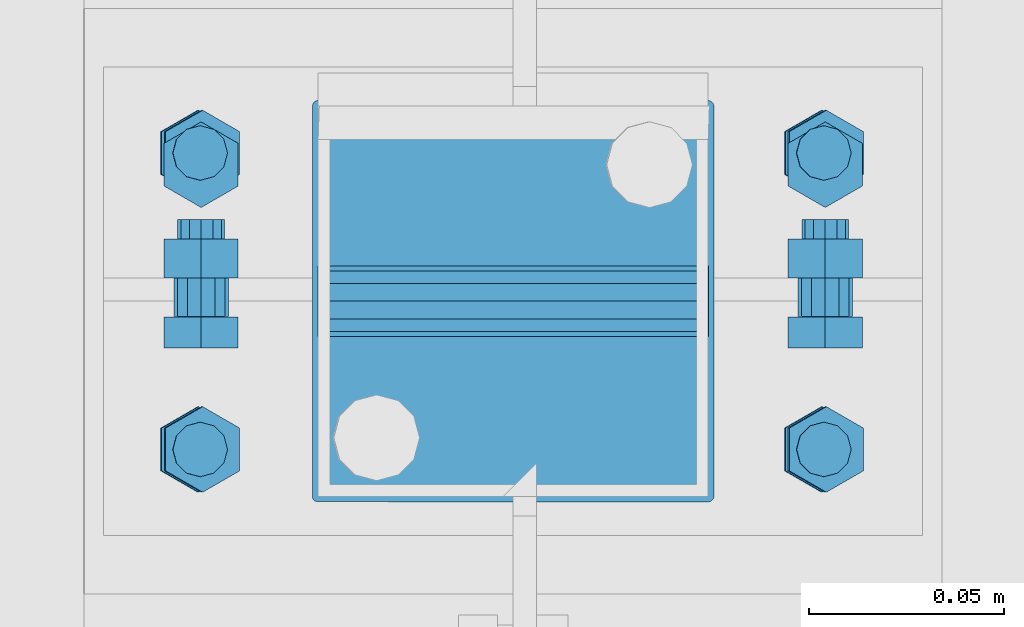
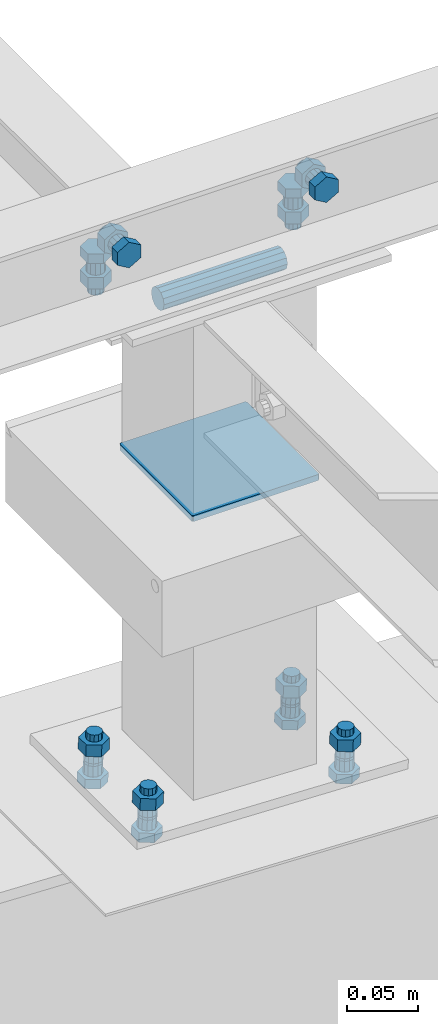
# One storey, part 8 of 3134: 6 mechanical fasteners, 3 elements without a shape of their own.
"""IFC2X3 building model written with IfcOpenShell, lengths in millimetres."""

from ifc_helpers import new_model, si_unit, frame, origin_with_axes, place, context, subcontext, project, spatial, faceted_brep, source, transform, mapped, material, type_object, element, aggregate, save


model = new_model("IFC2X3")

# Units and contexts
model_context = context("Model", 3, precision=1e-05, world=origin_with_axes())
body_context = subcontext(model_context, "Body", "Model", "MODEL_VIEW")
ifc_project = project(units=[si_unit("LENGTHUNIT", "METRE", prefix="MILLI"), si_unit("AREAUNIT", "SQUARE_METRE"), si_unit("VOLUMEUNIT", "CUBIC_METRE"), si_unit("MASSUNIT", "GRAM", prefix="KILO"), si_unit("TIMEUNIT", "SECOND"), si_unit("PLANEANGLEUNIT", "RADIAN"), si_unit("SOLIDANGLEUNIT", "STERADIAN"), si_unit("THERMODYNAMICTEMPERATUREUNIT", "DEGREE_CELSIUS"), si_unit("LUMINOUSINTENSITYUNIT", "LUMEN")], contexts=[model_context])

# Site, building, storey
site_placement = place(None, origin_with_axes())
site = spatial("IfcSite", under=ifc_project, at=site_placement, CompositionType="ELEMENT")
building_placement = place(site_placement, origin_with_axes())
building = spatial("IfcBuilding", under=site, at=building_placement, Name="Undefined", CompositionType="ELEMENT")
storey_placement = place(building_placement, origin_with_axes())
storey = spatial("IfcBuildingStorey", under=building, at=storey_placement, Name="Undefined", CompositionType="ELEMENT", Elevation=0.0)

# Assembly, mechanical fastener
assembly_1_placement = place(storey_placement, origin_with_axes())
assembly_1 = element("IfcElementAssembly", 1, at=assembly_1_placement, inside=storey, AssemblyPlace="NOTDEFINED", PredefinedType="RIGID_FRAME")
ifc_material_1 = material(Name="8.8")
mechanical_fastener_type = type_object("IfcMechanicalFastenerType", Name="Bolt assembly")
shared_shape_1 = source(origin_with_axes(), body_context, "Body", "Brep", [
    faceted_brep([(10.9696551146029, -14.0, 0.0), (5.48482755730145, -14.0, 9.5), (-5.48482755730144, -14.0, 9.5), (-10.9696551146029, -14.0, 1.34339530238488e-15), (-5.48482755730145, -14.0, -9.5), (5.48482755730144, -14.0, -9.50000000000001), (5.48482755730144, -6.0, -9.50000000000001), (-5.48482755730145, -6.0, -9.5), (-10.9696551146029, -6.0, 1.34339530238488e-15), (-5.48482755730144, -6.0, 9.5), (5.48482755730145, -6.0, 9.5), (10.9696551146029, -6.0, 0.0), (6.0, -6.0, 0.0), (5.19615242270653, -6.0, 3.00000000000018), (2.99999999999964, -6.0, 5.19615242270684), (-6.21801588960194e-13, -6.0, 6.0), (-3.00000000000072, -6.0, 5.19615242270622), (-5.19615242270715, -6.0, 2.9999999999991), (-6.0, -6.0, -1.24360317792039e-12), (-5.19615242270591, -6.0, -3.00000000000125), (-2.99999999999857, -6.0, -5.19615242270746), (1.85874342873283e-12, -6.0, -6.0), (3.00000000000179, -6.0, -5.1961524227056), (5.19615242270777, -6.0, -2.99999999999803), (5.19615242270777, 24.0, -2.99999999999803), (3.00000000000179, 24.0, -5.1961524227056), (1.85874342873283e-12, 24.0, -6.0), (-2.99999999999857, 24.0, -5.19615242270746), (-5.19615242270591, 24.0, -3.00000000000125), (-6.0, 24.0, -1.24360317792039e-12), (-5.19615242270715, 24.0, 2.9999999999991), (-3.00000000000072, 24.0, 5.19615242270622), (-6.21801588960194e-13, 24.0, 6.0), (2.99999999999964, 24.0, 5.19615242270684), (5.19615242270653, 24.0, 3.00000000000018), (6.0, 24.0, 0.0), (10.9696551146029, 6.00000000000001, 0.0), (5.48482755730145, 6.00000000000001, 9.5), (-5.48482755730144, 6.00000000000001, 9.5), (-10.9696551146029, 6.00000000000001, 1.34339530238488e-15), (-5.48482755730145, 6.00000000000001, -9.5), (5.48482755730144, 6.00000000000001, -9.50000000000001), (5.48482755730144, 16.0, -9.50000000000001), (-5.48482755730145, 16.0, -9.5), (-10.9696551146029, 16.0, 1.34339530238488e-15), (-5.48482755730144, 16.0, 9.5), (5.48482755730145, 16.0, 9.5), (10.9696551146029, 16.0, 0.0)], [[[0, 1, 2, 3, 4, 5]], [[6, 7, 8, 9, 10, 11]], [[0, 11, 10, 1]], [[1, 10, 9, 2]], [[2, 9, 8, 3]], [[3, 8, 7, 4]], [[4, 7, 6, 5]], [[5, 6, 11, 0]], [[12, 13, 14, 15, 16, 17, 18, 19, 20, 21, 22, 23]], [[24, 25, 26, 27, 28, 29, 30, 31, 32, 33, 34, 35]], [[12, 35, 34, 13]], [[13, 34, 33, 14]], [[14, 33, 32, 15]], [[15, 32, 31, 16]], [[16, 31, 30, 17]], [[17, 30, 29, 18]], [[18, 29, 28, 19]], [[19, 28, 27, 20]], [[20, 27, 26, 21]], [[21, 26, 25, 22]], [[22, 25, 24, 23]], [[23, 24, 35, 12]], [[36, 37, 38, 39, 40, 41]], [[42, 43, 44, 45, 46, 47]], [[36, 47, 46, 37]], [[37, 46, 45, 38]], [[38, 45, 44, 39]], [[39, 44, 43, 40]], [[40, 43, 42, 41]], [[41, 42, 47, 36]]]),
    faceted_brep([(7.0, -0.1, 0.0), (6.06217782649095, -0.1, 3.50000000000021), (3.49999999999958, -0.1, 6.06217782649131), (-7.25435187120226e-13, -0.1, 7.0), (-3.50000000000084, -0.1, 6.06217782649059), (-6.06217782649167, -0.1, 3.49999999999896), (-7.0, -0.1, -1.45087037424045e-12), (-6.06217782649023, -0.1, -3.50000000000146), (-3.49999999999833, -0.1, -6.06217782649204), (2.1685340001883e-12, -0.1, -7.0), (3.50000000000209, -0.1, -6.06217782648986), (6.0621778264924, -0.1, -3.4999999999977), (6.0621778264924, 6.00000000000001, -3.4999999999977), (3.50000000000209, 6.00000000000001, -6.06217782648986), (2.1685340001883e-12, 6.00000000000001, -7.0), (-3.49999999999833, 6.00000000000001, -6.06217782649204), (-6.06217782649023, 6.00000000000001, -3.50000000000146), (-7.0, 6.00000000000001, -1.45087037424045e-12), (-6.06217782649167, 6.00000000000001, 3.49999999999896), (-3.50000000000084, 6.00000000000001, 6.06217782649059), (-7.25435187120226e-13, 6.00000000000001, 7.0), (3.49999999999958, 6.00000000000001, 6.06217782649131), (6.06217782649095, 6.00000000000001, 3.50000000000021), (7.0, 6.00000000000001, 0.0), (7.0, -5.9, 0.0), (6.06217782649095, -5.9, 3.50000000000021), (3.49999999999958, -5.9, 6.06217782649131), (-7.25435187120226e-13, -5.9, 7.0), (-3.50000000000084, -5.9, 6.06217782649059), (-6.06217782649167, -5.9, 3.49999999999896), (-7.0, -5.9, -1.45087037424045e-12), (-6.06217782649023, -5.9, -3.50000000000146), (-3.49999999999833, -5.9, -6.06217782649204), (2.1685340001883e-12, -5.9, -7.0), (3.50000000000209, -5.9, -6.06217782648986), (6.0621778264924, -5.9, -3.4999999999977), (6.0621778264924, 0.0999999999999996, -3.4999999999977), (3.50000000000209, 0.0999999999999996, -6.06217782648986), (2.1685340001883e-12, 0.0999999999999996, -7.0), (-3.49999999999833, 0.0999999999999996, -6.06217782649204), (-6.06217782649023, 0.0999999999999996, -3.50000000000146), (-7.0, 0.0999999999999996, -1.45087037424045e-12), (-6.06217782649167, 0.0999999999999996, 3.49999999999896), (-3.50000000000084, 0.0999999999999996, 6.06217782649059), (-7.25435187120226e-13, 0.0999999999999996, 7.0), (3.49999999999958, 0.0999999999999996, 6.06217782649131), (6.06217782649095, 0.0999999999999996, 3.50000000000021), (7.0, 0.0999999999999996, 0.0)], [[[0, 1, 2, 3, 4, 5, 6, 7, 8, 9, 10, 11]], [[12, 13, 14, 15, 16, 17, 18, 19, 20, 21, 22, 23]], [[0, 23, 22, 1]], [[1, 22, 21, 2]], [[2, 21, 20, 3]], [[3, 20, 19, 4]], [[4, 19, 18, 5]], [[5, 18, 17, 6]], [[6, 17, 16, 7]], [[7, 16, 15, 8]], [[8, 15, 14, 9]], [[9, 14, 13, 10]], [[10, 13, 12, 11]], [[11, 12, 23, 0]], [[24, 25, 26, 27, 28, 29, 30, 31, 32, 33, 34, 35]], [[36, 37, 38, 39, 40, 41, 42, 43, 44, 45, 46, 47]], [[24, 47, 46, 25]], [[25, 46, 45, 26]], [[26, 45, 44, 27]], [[27, 44, 43, 28]], [[28, 43, 42, 29]], [[29, 42, 41, 30]], [[30, 41, 40, 31]], [[31, 40, 39, 32]], [[32, 39, 38, 33]], [[33, 38, 37, 34]], [[34, 37, 36, 35]], [[35, 36, 47, 24]]]),
])
mechanical_fastener_1_placement = place(assembly_1_placement, frame((3043.33, 13095.0, 4365.0), z_axis=(1.0, 0.0, 0.0), x_axis=(0.0, -1.0, 0.0)))
mechanical_fastener_1 = element("IfcMechanicalFastener", 2, at=mechanical_fastener_1_placement, type_object=mechanical_fastener_type, material=ifc_material_1, Name="Bolt assembly", NominalDiameter=12.0, NominalLength=30.0, context=body_context, shape_type="MappedRepresentation", body=[
    mapped(shared_shape_1, transform((0.0, -5.32963895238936e-10, -79.9999999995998))),
    mapped(shared_shape_1, transform((0.0, 5.3114490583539e-10, 79.9999999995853))),
])

assembly_2_placement = place(storey_placement, origin_with_axes())
assembly_2 = element("IfcElementAssembly", 3, at=assembly_2_placement, inside=storey, AssemblyPlace="NOTDEFINED", PredefinedType="RIGID_FRAME")
shared_shape_2 = source(origin_with_axes(), body_context, "Body", "Brep", [
    faceted_brep([(10.9696551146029, -4.1972538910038, 0.0), (5.48482755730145, -4.1972538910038, 9.5), (-5.48482755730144, -4.1972538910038, 9.5), (-10.9696551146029, -4.1972538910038, 1.34339530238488e-15), (-5.48482755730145, -4.1972538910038, -9.5), (5.48482755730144, -4.1972538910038, -9.50000000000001), (5.48482755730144, 3.8027461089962, -9.50000000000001), (-5.48482755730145, 3.8027461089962, -9.5), (-10.9696551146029, 3.8027461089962, 1.34339530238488e-15), (-5.48482755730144, 3.8027461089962, 9.5), (5.48482755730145, 3.8027461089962, 9.5), (10.9696551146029, 3.8027461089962, 0.0), (6.0, 3.8027461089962, 0.0), (5.19615242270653, 3.8027461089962, 3.00000000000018), (2.99999999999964, 3.8027461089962, 5.19615242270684), (-6.21801588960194e-13, 3.8027461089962, 6.0), (-3.00000000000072, 3.8027461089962, 5.19615242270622), (-5.19615242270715, 3.8027461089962, 2.9999999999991), (-6.0, 3.8027461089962, -1.24360317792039e-12), (-5.19615242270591, 3.8027461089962, -3.00000000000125), (-2.99999999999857, 3.8027461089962, -5.19615242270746), (1.85874342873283e-12, 3.8027461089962, -6.0), (3.00000000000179, 3.8027461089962, -5.1961524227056), (5.19615242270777, 3.8027461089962, -2.99999999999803), (5.19615242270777, 38.8027461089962, -2.99999999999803), (3.00000000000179, 38.8027461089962, -5.1961524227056), (1.85874342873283e-12, 38.8027461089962, -6.0), (-2.99999999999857, 38.8027461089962, -5.19615242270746), (-5.19615242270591, 38.8027461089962, -3.00000000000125), (-6.0, 38.8027461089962, -1.24360317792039e-12), (-5.19615242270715, 38.8027461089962, 2.9999999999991), (-3.00000000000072, 38.8027461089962, 5.19615242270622), (-6.21801588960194e-13, 38.8027461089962, 6.0), (2.99999999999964, 38.8027461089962, 5.19615242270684), (5.19615242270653, 38.8027461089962, 3.00000000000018), (6.0, 38.8027461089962, 0.0), (10.9696551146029, 23.0139082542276, 0.0), (5.48482755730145, 23.0139082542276, 9.5), (-5.48482755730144, 23.0139082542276, 9.5), (-10.9696551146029, 23.0139082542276, 1.34339530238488e-15), (-5.48482755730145, 23.0139082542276, -9.5), (5.48482755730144, 23.0139082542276, -9.50000000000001), (5.48482755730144, 33.0139082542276, -9.50000000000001), (-5.48482755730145, 33.0139082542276, -9.5), (-10.9696551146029, 33.0139082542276, 1.34339530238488e-15), (-5.48482755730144, 33.0139082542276, 9.5), (5.48482755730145, 33.0139082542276, 9.5), (10.9696551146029, 33.0139082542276, 0.0)], [[[0, 1, 2, 3, 4, 5]], [[6, 7, 8, 9, 10, 11]], [[0, 11, 10, 1]], [[1, 10, 9, 2]], [[2, 9, 8, 3]], [[3, 8, 7, 4]], [[4, 7, 6, 5]], [[5, 6, 11, 0]], [[12, 13, 14, 15, 16, 17, 18, 19, 20, 21, 22, 23]], [[24, 25, 26, 27, 28, 29, 30, 31, 32, 33, 34, 35]], [[12, 35, 34, 13]], [[13, 34, 33, 14]], [[14, 33, 32, 15]], [[15, 32, 31, 16]], [[16, 31, 30, 17]], [[17, 30, 29, 18]], [[18, 29, 28, 19]], [[19, 28, 27, 20]], [[20, 27, 26, 21]], [[21, 26, 25, 22]], [[22, 25, 24, 23]], [[23, 24, 35, 12]], [[36, 37, 38, 39, 40, 41]], [[42, 43, 44, 45, 46, 47]], [[36, 47, 46, 37]], [[37, 46, 45, 38]], [[38, 45, 44, 39]], [[39, 44, 43, 40]], [[40, 43, 42, 41]], [[41, 42, 47, 36]]]),
    faceted_brep([(7.0, 3.9027461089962, 0.0), (6.06217782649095, 3.9027461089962, 3.50000000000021), (3.49999999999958, 3.9027461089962, 6.06217782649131), (-7.25435187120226e-13, 3.9027461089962, 7.0), (-3.50000000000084, 3.9027461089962, 6.06217782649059), (-6.06217782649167, 3.9027461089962, 3.49999999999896), (-7.0, 3.9027461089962, -1.45087037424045e-12), (-6.06217782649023, 3.9027461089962, -3.50000000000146), (-3.49999999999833, 3.9027461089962, -6.06217782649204), (2.1685340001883e-12, 3.9027461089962, -7.0), (3.50000000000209, 3.9027461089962, -6.06217782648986), (6.0621778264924, 3.9027461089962, -3.4999999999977), (6.0621778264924, 13.1027459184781, -3.4999999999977), (3.50000000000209, 13.1027459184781, -6.06217782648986), (2.1685340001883e-12, 13.1027459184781, -7.0), (-3.49999999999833, 13.1027459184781, -6.06217782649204), (-6.06217782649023, 13.1027459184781, -3.50000000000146), (-7.0, 13.1027459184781, -1.45087037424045e-12), (-6.06217782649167, 13.1027459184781, 3.49999999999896), (-3.50000000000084, 13.1027459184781, 6.06217782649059), (-7.25435187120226e-13, 13.1027459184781, 7.0), (3.49999999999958, 13.1027459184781, 6.06217782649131), (6.06217782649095, 13.1027459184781, 3.50000000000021), (7.0, 13.1027459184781, 0.0), (7.0, 14.9139082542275, 0.0), (6.06217782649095, 14.9139082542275, 3.50000000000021), (3.49999999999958, 14.9139082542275, 6.06217782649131), (-7.25435187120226e-13, 14.9139082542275, 7.0), (-3.50000000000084, 14.9139082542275, 6.06217782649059), (-6.06217782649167, 14.9139082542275, 3.49999999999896), (-7.0, 14.9139082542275, -1.45087037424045e-12), (-6.06217782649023, 14.9139082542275, -3.50000000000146), (-3.49999999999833, 14.9139082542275, -6.06217782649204), (2.1685340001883e-12, 14.9139082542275, -7.0), (3.50000000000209, 14.9139082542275, -6.06217782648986), (6.0621778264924, 14.9139082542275, -3.4999999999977), (6.0621778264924, 23.0139082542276, -3.4999999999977), (3.50000000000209, 23.0139082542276, -6.06217782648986), (2.1685340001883e-12, 23.0139082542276, -7.0), (-3.49999999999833, 23.0139082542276, -6.06217782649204), (-6.06217782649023, 23.0139082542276, -3.50000000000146), (-7.0, 23.0139082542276, -1.45087037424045e-12), (-6.06217782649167, 23.0139082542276, 3.49999999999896), (-3.50000000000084, 23.0139082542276, 6.06217782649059), (-7.25435187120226e-13, 23.0139082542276, 7.0), (3.49999999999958, 23.0139082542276, 6.06217782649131), (6.06217782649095, 23.0139082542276, 3.50000000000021), (7.0, 23.0139082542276, 0.0)], [[[0, 1, 2, 3, 4, 5, 6, 7, 8, 9, 10, 11]], [[12, 13, 14, 15, 16, 17, 18, 19, 20, 21, 22, 23]], [[0, 23, 22, 1]], [[1, 22, 21, 2]], [[2, 21, 20, 3]], [[3, 20, 19, 4]], [[4, 19, 18, 5]], [[5, 18, 17, 6]], [[6, 17, 16, 7]], [[7, 16, 15, 8]], [[8, 15, 14, 9]], [[9, 14, 13, 10]], [[10, 13, 12, 11]], [[11, 12, 23, 0]], [[24, 25, 26, 27, 28, 29, 30, 31, 32, 33, 34, 35]], [[36, 37, 38, 39, 40, 41, 42, 43, 44, 45, 46, 47]], [[24, 47, 46, 25]], [[25, 46, 45, 26]], [[26, 45, 44, 27]], [[27, 44, 43, 28]], [[28, 43, 42, 29]], [[29, 42, 41, 30]], [[30, 41, 40, 31]], [[31, 40, 39, 32]], [[32, 39, 38, 33]], [[33, 38, 37, 34]], [[34, 37, 36, 35]], [[35, 36, 47, 24]]]),
])
mechanical_fastener_2_placement = place(assembly_2_placement, frame((3042.5231765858, 13097.9999999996, 3920.50000668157), z_axis=(-0.999387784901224, 0.0, 0.0349865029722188), x_axis=(0.0, -1.0, 0.0)))
mechanical_fastener_2 = element("IfcMechanicalFastener", 4, at=mechanical_fastener_2_placement, type_object=mechanical_fastener_type, material=ifc_material_1, Name="Bolt assembly", NominalDiameter=12.0, NominalLength=35.0, context=body_context, shape_type="MappedRepresentation", body=[
    mapped(shared_shape_2, transform((0.0, -5.32963895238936e-10, -79.9999999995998))),
    mapped(shared_shape_2, transform((76.0, -5.32963895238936e-10, -79.9999999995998))),
    mapped(shared_shape_2, transform((0.0, 5.3114490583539e-10, 79.9999999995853))),
    mapped(shared_shape_2, transform((76.0, 5.3114490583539e-10, 79.9999999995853))),
])

assembly_3_placement = place(storey_placement, origin_with_axes())
assembly_3 = element("IfcElementAssembly", 5, at=assembly_3_placement, inside=storey, AssemblyPlace="NOTDEFINED", PredefinedType="RIGID_FRAME")
shared_shape_3 = source(origin_with_axes(), body_context, "Body", "Brep", [
    faceted_brep([(7.0, 13.0000253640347, 0.0), (6.06217782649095, 13.0000253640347, 3.50000000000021), (3.49999999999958, 13.0000253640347, 6.06217782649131), (-7.25435187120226e-13, 13.0000253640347, 7.0), (-3.50000000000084, 13.0000253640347, 6.06217782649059), (-6.06217782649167, 13.0000253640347, 3.49999999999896), (-7.0, 13.0000253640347, -1.45087037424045e-12), (-6.06217782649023, 13.0000253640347, -3.50000000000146), (-3.49999999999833, 13.0000253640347, -6.06217782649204), (2.1685340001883e-12, 13.0000253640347, -7.0), (3.50000000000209, 13.0000253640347, -6.06217782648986), (6.0621778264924, 13.0000253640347, -3.4999999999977), (6.0621778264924, 15.0999999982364, -3.4999999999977), (3.50000000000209, 15.0999999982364, -6.06217782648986), (2.1685340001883e-12, 15.0999999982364, -7.0), (-3.49999999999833, 15.0999999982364, -6.06217782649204), (-6.06217782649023, 15.0999999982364, -3.50000000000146), (-7.0, 15.0999999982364, -1.45087037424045e-12), (-6.06217782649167, 15.0999999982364, 3.49999999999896), (-3.50000000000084, 15.0999999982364, 6.06217782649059), (-7.25435187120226e-13, 15.0999999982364, 7.0), (3.49999999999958, 15.0999999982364, 6.06217782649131), (6.06217782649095, 15.0999999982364, 3.50000000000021), (7.0, 15.0999999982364, 0.0)], [[[0, 1, 2, 3, 4, 5, 6, 7, 8, 9, 10, 11]], [[12, 13, 14, 15, 16, 17, 18, 19, 20, 21, 22, 23]], [[0, 23, 22, 1]], [[1, 22, 21, 2]], [[2, 21, 20, 3]], [[3, 20, 19, 4]], [[4, 19, 18, 5]], [[5, 18, 17, 6]], [[6, 17, 16, 7]], [[7, 16, 15, 8]], [[8, 15, 14, 9]], [[9, 14, 13, 10]], [[10, 13, 12, 11]], [[11, 12, 23, 0]]]),
])
mechanical_fastener_3_placement = place(assembly_3_placement, frame((3042.5231765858, 13097.9999999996, 3920.50000668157), z_axis=(-0.999387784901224, 0.0, 0.0349865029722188), x_axis=(0.0, -1.0, 0.0)))
mechanical_fastener_3 = element("IfcMechanicalFastener", 6, at=mechanical_fastener_3_placement, type_object=mechanical_fastener_type, material=ifc_material_1, Name="Bolt assembly", NominalDiameter=12.0, NominalLength=2.0, context=body_context, shape_type="MappedRepresentation", body=[
    mapped(shared_shape_3, transform((0.0, -5.32963895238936e-10, -79.9999999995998))),
    mapped(shared_shape_3, transform((76.0, -5.32963895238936e-10, -79.9999999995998))),
    mapped(shared_shape_3, transform((0.0, 5.3114490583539e-10, 79.9999999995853))),
    mapped(shared_shape_3, transform((76.0, 5.3114490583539e-10, 79.9999999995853))),
])
aggregate(assembly_3, [mechanical_fastener_3])

# Mechanical fastener
shared_shape_4 = source(origin_with_axes(), body_context, "Body", "Brep", [
    faceted_brep([(9.0, -50.0, 0.0), (7.79422863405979, -50.0, 4.50000000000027), (4.49999999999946, -50.0, 7.79422863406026), (-9.3270238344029e-13, -50.0, 9.0), (-4.50000000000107, -50.0, 7.79422863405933), (-7.79422863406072, -50.0, 4.49999999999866), (-9.0, -50.0, -1.86540476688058e-12), (-7.79422863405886, -50.0, -4.50000000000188), (-4.49999999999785, -50.0, -7.79422863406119), (2.78811514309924e-12, -50.0, -9.0), (4.50000000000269, -50.0, -7.7942286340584), (7.79422863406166, -50.0, -4.49999999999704), (7.79422863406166, 50.1, -4.49999999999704), (4.50000000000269, 50.1, -7.7942286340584), (2.78811514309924e-12, 50.1, -9.0), (-4.49999999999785, 50.1, -7.79422863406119), (-7.79422863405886, 50.1, -4.50000000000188), (-9.0, 50.1, -1.86540476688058e-12), (-7.79422863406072, 50.1, 4.49999999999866), (-4.50000000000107, 50.1, 7.79422863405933), (-9.3270238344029e-13, 50.1, 9.0), (4.49999999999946, 50.1, 7.79422863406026), (7.79422863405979, 50.1, 4.50000000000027), (9.0, 50.1, 0.0)], [[[0, 1, 2, 3, 4, 5, 6, 7, 8, 9, 10, 11]], [[12, 13, 14, 15, 16, 17, 18, 19, 20, 21, 22, 23]], [[0, 23, 22, 1]], [[1, 22, 21, 2]], [[2, 21, 20, 3]], [[3, 20, 19, 4]], [[4, 19, 18, 5]], [[5, 18, 17, 6]], [[6, 17, 16, 7]], [[7, 16, 15, 8]], [[8, 15, 14, 9]], [[9, 14, 13, 10]], [[10, 13, 12, 11]], [[11, 12, 23, 0]]]),
])
mechanical_fastener_4_placement = place(assembly_2_placement, frame((3043.33, 13060.0, 4345.0), z_axis=(0.0, 1.0, 0.0), x_axis=(0.0, 0.0, 1.0)))
mechanical_fastener_4 = element("IfcMechanicalFastener", 7, at=mechanical_fastener_4_placement, type_object=mechanical_fastener_type, material=ifc_material_1, Name="Bolt assembly", NominalDiameter=16.0, NominalLength=100.0, context=body_context, shape_type="MappedRepresentation", body=[
    mapped(shared_shape_4, transform((0.0, 0.0, 0.0))),
])

ifc_material_2 = material(Name="6.8")
shared_shape_5 = source(origin_with_axes(), body_context, "Body", "Brep", [
    faceted_brep([(51.5, 1.36424205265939e-12, 50.0), (51.3858192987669, 1.36424205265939e-12, 50.5740251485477), (51.0606601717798, 1.36424205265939e-12, 51.0606601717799), (50.5740251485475, 1.36424205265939e-12, 51.385819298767), (-50.0000000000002, 1.36424205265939e-12, 51.5), (-50.7500000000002, 1.36424205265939e-12, 51.2990381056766), (-51.2990381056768, 1.36424205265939e-12, 50.7499999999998), (-51.5, 1.36424205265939e-12, 49.9999999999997), (-51.5, 1.36424205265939e-12, -50.0000000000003), (-51.2990381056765, 1.36424205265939e-12, -50.7500000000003), (-50.7499999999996, 1.36424205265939e-12, -51.2990381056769), (-49.9999999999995, 1.36424205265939e-12, -51.5), (50.0000000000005, 1.36424205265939e-12, -51.5), (50.7500000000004, 1.36424205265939e-12, -51.2990381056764), (51.2990381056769, 1.36424205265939e-12, -50.7499999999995), (51.5, 1.36424205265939e-12, -49.9999999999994), (51.5, 5.10000000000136, -49.9999999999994), (51.2990381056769, 5.10000000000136, -50.7499999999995), (50.7500000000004, 5.10000000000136, -51.2990381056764), (50.0000000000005, 5.10000000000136, -51.5), (-49.9999999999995, 5.10000000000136, -51.5), (-50.7499999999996, 5.10000000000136, -51.2990381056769), (-51.2990381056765, 5.10000000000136, -50.7500000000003), (-51.5, 5.10000000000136, -50.0000000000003), (-51.5, 5.10000000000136, 49.9999999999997), (-51.2990381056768, 5.10000000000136, 50.7499999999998), (-50.7500000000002, 5.10000000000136, 51.2990381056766), (-50.0000000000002, 5.10000000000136, 51.5), (50.5740251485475, 5.10000000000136, 51.385819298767), (51.0606601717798, 5.10000000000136, 51.0606601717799), (51.3858192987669, 5.10000000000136, 50.5740251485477), (51.5, 5.10000000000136, 50.0)], [[[0, 1, 2, 3, 4, 5, 6, 7, 8, 9, 10, 11, 12, 13, 14, 15]], [[16, 17, 18, 19, 20, 21, 22, 23, 24, 25, 26, 27, 28, 29, 30, 31]], [[0, 31, 30, 1]], [[1, 30, 29, 2]], [[2, 29, 28, 3]], [[3, 28, 27, 4]], [[4, 27, 26, 5]], [[5, 26, 25, 6]], [[6, 25, 24, 7]], [[7, 24, 23, 8]], [[8, 23, 22, 9]], [[9, 22, 21, 10]], [[10, 21, 20, 11]], [[11, 20, 19, 12]], [[12, 19, 18, 13]], [[13, 18, 17, 14]], [[14, 17, 16, 15]], [[15, 16, 31, 0]]]),
])
mechanical_fastener_5_placement = place(assembly_2_placement, frame((3043.33, 13060.0, 4190.29), z_axis=(0.0, -1.0, 0.0), x_axis=(-1.0, 0.0, 0.0)))
mechanical_fastener_5 = element("IfcMechanicalFastener", 8, at=mechanical_fastener_5_placement, type_object=mechanical_fastener_type, material=ifc_material_2, Name="Bolt assembly", NominalDiameter=10.0, NominalLength=5.0, context=body_context, shape_type="MappedRepresentation", body=[
    mapped(shared_shape_5, transform((0.0, 0.0, 0.0))),
])

aggregate(assembly_2, [mechanical_fastener_5, mechanical_fastener_2, mechanical_fastener_4])

shared_shape_6 = source(origin_with_axes(), body_context, "Body", "Brep", [
    faceted_brep([(10.9696551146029, -12.0003169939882, 0.0), (5.48482755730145, -12.0003169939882, 9.5), (-5.48482755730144, -12.0003169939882, 9.5), (-10.9696551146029, -12.0003169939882, 1.34339530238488e-15), (-5.48482755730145, -12.0003169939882, -9.5), (5.48482755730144, -12.0003169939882, -9.50000000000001), (5.48482755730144, -4.00031699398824, -9.50000000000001), (-5.48482755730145, -4.00031699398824, -9.5), (-10.9696551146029, -4.00031699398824, 1.34339530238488e-15), (-5.48482755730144, -4.00031699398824, 9.5), (5.48482755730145, -4.00031699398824, 9.5), (10.9696551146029, -4.00031699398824, 0.0), (6.0, -4.00031699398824, 0.0), (5.19615242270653, -4.00031699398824, 3.00000000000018), (2.99999999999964, -4.00031699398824, 5.19615242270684), (-6.21801588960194e-13, -4.00031699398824, 6.0), (-3.00000000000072, -4.00031699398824, 5.19615242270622), (-5.19615242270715, -4.00031699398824, 2.9999999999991), (-6.0, -4.00031699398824, -1.24360317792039e-12), (-5.19615242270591, -4.00031699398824, -3.00000000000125), (-2.99999999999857, -4.00031699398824, -5.19615242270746), (1.85874342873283e-12, -4.00031699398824, -6.0), (3.00000000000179, -4.00031699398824, -5.1961524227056), (5.19615242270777, -4.00031699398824, -2.99999999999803), (5.19615242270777, 20.9997148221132, -2.99999999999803), (3.00000000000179, 20.9997148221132, -5.1961524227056), (1.85874342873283e-12, 20.9997148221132, -6.0), (-2.99999999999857, 20.9997148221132, -5.19615242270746), (-5.19615242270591, 20.9997148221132, -3.00000000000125), (-6.0, 20.9997148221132, -1.24360317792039e-12), (-5.19615242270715, 20.9997148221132, 2.9999999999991), (-3.00000000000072, 20.9997148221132, 5.19615242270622), (-6.21801588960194e-13, 20.9997148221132, 6.0), (2.99999999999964, 20.9997148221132, 5.19615242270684), (5.19615242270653, 20.9997148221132, 3.00000000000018), (6.0, 20.9997148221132, 0.0), (10.9696551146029, 6.00000000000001, 0.0), (5.48482755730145, 6.00000000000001, 9.5), (-5.48482755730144, 6.00000000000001, 9.5), (-10.9696551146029, 6.00000000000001, 1.34339530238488e-15), (-5.48482755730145, 6.00000000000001, -9.5), (5.48482755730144, 6.00000000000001, -9.50000000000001), (5.48482755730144, 16.0, -9.50000000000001), (-5.48482755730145, 16.0, -9.5), (-10.9696551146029, 16.0, 1.34339530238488e-15), (-5.48482755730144, 16.0, 9.5), (5.48482755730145, 16.0, 9.5), (10.9696551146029, 16.0, 0.0)], [[[0, 1, 2, 3, 4, 5]], [[6, 7, 8, 9, 10, 11]], [[0, 11, 10, 1]], [[1, 10, 9, 2]], [[2, 9, 8, 3]], [[3, 8, 7, 4]], [[4, 7, 6, 5]], [[5, 6, 11, 0]], [[12, 13, 14, 15, 16, 17, 18, 19, 20, 21, 22, 23]], [[24, 25, 26, 27, 28, 29, 30, 31, 32, 33, 34, 35]], [[12, 35, 34, 13]], [[13, 34, 33, 14]], [[14, 33, 32, 15]], [[15, 32, 31, 16]], [[16, 31, 30, 17]], [[17, 30, 29, 18]], [[18, 29, 28, 19]], [[19, 28, 27, 20]], [[20, 27, 26, 21]], [[21, 26, 25, 22]], [[22, 25, 24, 23]], [[23, 24, 35, 12]], [[36, 37, 38, 39, 40, 41]], [[42, 43, 44, 45, 46, 47]], [[36, 47, 46, 37]], [[37, 46, 45, 38]], [[38, 45, 44, 39]], [[39, 44, 43, 40]], [[40, 43, 42, 41]], [[41, 42, 47, 36]]]),
    faceted_brep([(7.0, -3.90031233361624, 0.0), (6.06217782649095, -3.90027629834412, 3.50000000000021), (3.49999999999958, -3.90031233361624, 6.06217782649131), (-7.25435187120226e-13, -3.90027629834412, 7.0), (-3.50000000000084, -3.90027629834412, 6.06217782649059), (-6.06217782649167, -3.90027629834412, 3.49999999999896), (-7.0, -3.90031233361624, -1.45087037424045e-12), (-6.06217782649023, -3.90027629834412, -3.50000000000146), (-3.49999999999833, -3.90027629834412, -6.06217782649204), (2.1685340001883e-12, -3.90027629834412, -7.0), (3.50000000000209, -3.90027629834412, -6.06217782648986), (6.0621778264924, -3.90031233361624, -3.4999999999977), (6.0621778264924, 0.0996830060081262, -3.4999999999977), (3.50000000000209, 0.0996830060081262, -6.06217782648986), (2.1685340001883e-12, 0.0996830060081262, -7.0), (-3.49999999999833, 0.0996830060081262, -6.06217782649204), (-6.06217782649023, 0.0996830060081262, -3.50000000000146), (-7.0, 0.0996830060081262, -1.45087037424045e-12), (-6.06217782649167, 0.0997148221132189, 3.49999999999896), (-3.50000000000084, 0.0997148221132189, 6.06217782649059), (-7.25435187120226e-13, 0.0996830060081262, 7.0), (3.49999999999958, 0.0996830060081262, 6.06217782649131), (6.06217782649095, 0.0996830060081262, 3.50000000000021), (7.0, 0.0997148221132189, 0.0), (7.0, -0.1, 0.0), (6.06217782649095, -0.1, 3.50000000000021), (3.49999999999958, -0.1, 6.06217782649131), (-7.25435187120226e-13, -0.1, 7.0), (-3.50000000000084, -0.1, 6.06217782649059), (-6.06217782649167, -0.1, 3.49999999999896), (-7.0, -0.1, -1.45087037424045e-12), (-6.06217782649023, -0.1, -3.50000000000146), (-3.49999999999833, -0.1, -6.06217782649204), (2.1685340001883e-12, -0.1, -7.0), (3.50000000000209, -0.1, -6.06217782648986), (6.0621778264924, -0.1, -3.4999999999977), (6.0621778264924, 6.00000000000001, -3.4999999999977), (3.50000000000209, 6.00000000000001, -6.06217782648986), (2.1685340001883e-12, 6.00000000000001, -7.0), (-3.49999999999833, 6.00000000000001, -6.06217782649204), (-6.06217782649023, 6.00000000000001, -3.50000000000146), (-7.0, 6.00000000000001, -1.45087037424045e-12), (-6.06217782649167, 6.00000000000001, 3.49999999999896), (-3.50000000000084, 6.00000000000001, 6.06217782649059), (-7.25435187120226e-13, 6.00000000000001, 7.0), (3.49999999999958, 6.00000000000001, 6.06217782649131), (6.06217782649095, 6.00000000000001, 3.50000000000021), (7.0, 6.00000000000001, 0.0)], [[[0, 1, 2, 3, 4, 5, 6, 7, 8, 9, 10, 11]], [[12, 13, 14, 15, 16, 17, 18, 19, 20, 21, 22, 23]], [[0, 23, 22, 1]], [[1, 22, 21, 2]], [[2, 21, 20, 3]], [[3, 20, 19, 4]], [[4, 19, 18, 5]], [[5, 18, 17, 6]], [[6, 17, 16, 7]], [[7, 16, 15, 8]], [[8, 15, 14, 9]], [[9, 14, 13, 10]], [[10, 13, 12, 11]], [[11, 12, 23, 0]], [[24, 25, 26, 27, 28, 29, 30, 31, 32, 33, 34, 35]], [[36, 37, 38, 39, 40, 41, 42, 43, 44, 45, 46, 47]], [[24, 47, 46, 25]], [[25, 46, 45, 26]], [[26, 45, 44, 27]], [[27, 44, 43, 28]], [[28, 43, 42, 29]], [[29, 42, 41, 30]], [[30, 41, 40, 31]], [[31, 40, 39, 32]], [[32, 39, 38, 33]], [[33, 38, 37, 34]], [[34, 37, 36, 35]], [[35, 36, 47, 24]]]),
])
mechanical_fastener_6_placement = place(assembly_1_placement, frame((3043.33, 13060.0, 4400.0), z_axis=(1.0, 0.0, 0.0), x_axis=(0.0, 0.0, -1.0)))
mechanical_fastener_6 = element("IfcMechanicalFastener", 9, at=mechanical_fastener_6_placement, type_object=mechanical_fastener_type, material=ifc_material_1, Name="Bolt assembly", NominalDiameter=12.0, NominalLength=25.0, context=body_context, shape_type="MappedRepresentation", body=[
    mapped(shared_shape_6, transform((0.0, -5.32963895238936e-10, -79.9999999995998))),
    mapped(shared_shape_6, transform((0.0, 5.3114490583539e-10, 79.9999999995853))),
])

aggregate(assembly_1, [mechanical_fastener_6, mechanical_fastener_1])

save(model, "model.ifc")
